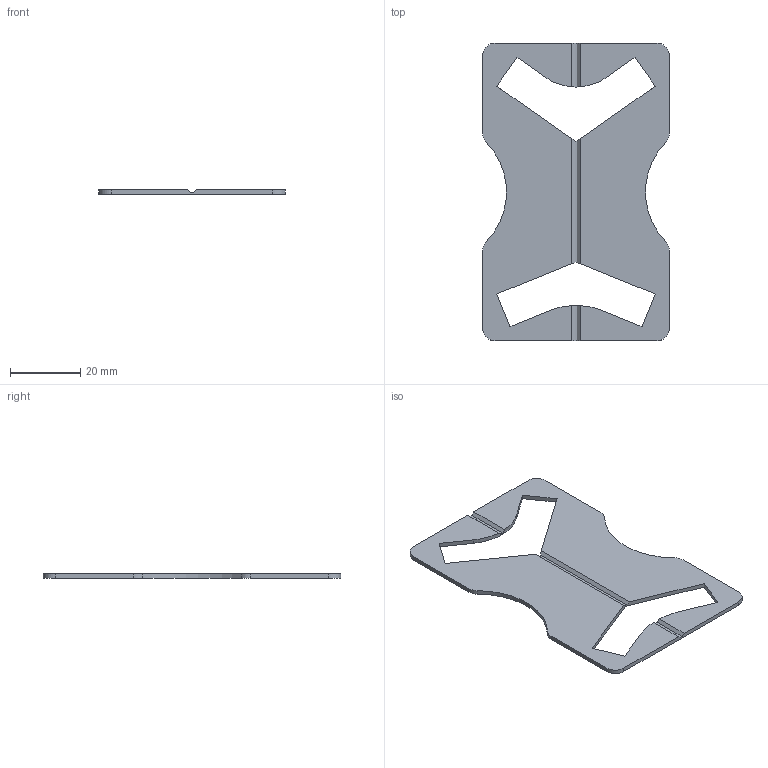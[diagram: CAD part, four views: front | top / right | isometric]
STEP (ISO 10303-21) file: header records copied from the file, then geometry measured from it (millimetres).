
FILE_DESCRIPTION(/* description */ ('STEP AP242','CAx-IF Rec.Pracs.---Representation and Presentation of Product Manufacturing Information (PMI)---4.0---2014-10-13','CAx-IF Rec.Pracs.---3D Tessellated Geometry---0.4---2014-09-14','2;1'),/* implementation_level */ '2;1');
FILE_NAME(/* name */ '658d76a8e1eb5917e2bc1ffe',/* time_stamp */ '2023-12-28T13:22:49Z',/* author */ (''),/* organization */ (''),/* preprocessor_version */ 'ST-DEVELOPER v19.4',/* originating_system */ ' ',/* authorisation */ ' ');
FILE_SCHEMA (('AP242_MANAGED_MODEL_BASED_3D_ENGINEERING_MIM_LF { 1 0 10303 442 1 1 4 }'));
Length unit declared in the file: metre
Products named in the file (1): Phone_stand
Bounding box: 53 x 84.5 x 1.2 mm (x, y, z)
Volume: 3806.4 mm3; surface area: 7092.8 mm2
Topology: 1 solids, 1 shells, 42 faces, 126 edges, 84 vertices
Faces by surface type: plane 30, cylinder 12
Entity records: 1452 total; most frequent: CARTESIAN_POINT 253, ORIENTED_EDGE 252, DIRECTION 244, EDGE_CURVE 126, LINE 94, VECTOR 94, VERTEX_POINT 84, AXIS2_PLACEMENT_3D 75
